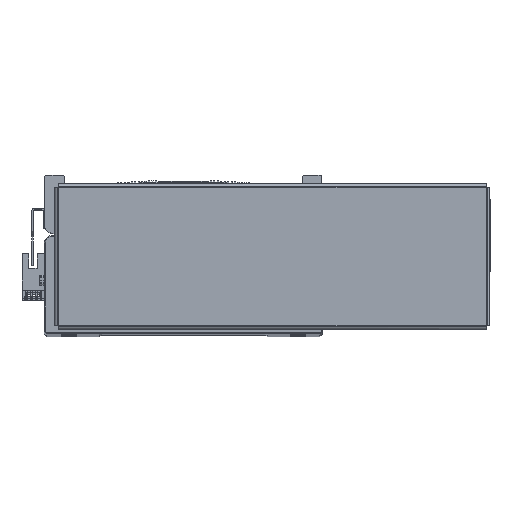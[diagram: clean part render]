
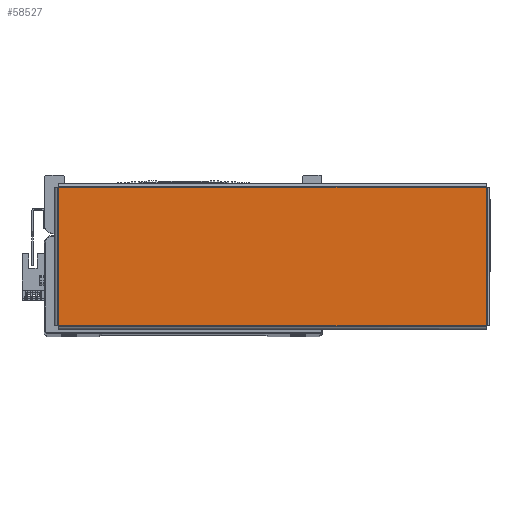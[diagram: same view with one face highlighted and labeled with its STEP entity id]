
A CAD part, top view. The second image highlights one B-rep face of the part: STEP entity #58527.
In plain terms, the highlighted planar face has unit normal (0, 0, 1) as drawn and (0, -1, 0) by its records, which use the part's own axes.
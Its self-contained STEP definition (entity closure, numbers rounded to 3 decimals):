
#2083 = PLANE ( 'NONE',  #71766 ) ;
#2295 = CARTESIAN_POINT ( 'NONE',  ( 0., -1.5, 0. ) ) ;
#2393 = DIRECTION ( 'NONE',  ( 0., 1., 0. ) ) ;
#2397 = DIRECTION ( 'NONE',  ( 0., 0., 1. ) ) ;
#14124 = FACE_OUTER_BOUND ( 'NONE', #55817, .T. ) ;
#14262 = LINE ( 'NONE', #71328, #14273 ) ;
#14273 = VECTOR ( 'NONE', #71342, 1000. ) ;
#14301 = LINE ( 'NONE', #71547, #14353 ) ;
#14309 = LINE ( 'NONE', #71543, #14337 ) ;
#14337 = VECTOR ( 'NONE', #71549, 1000. ) ;
#14353 = VECTOR ( 'NONE', #71511, 1000. ) ;
#20566 = CARTESIAN_POINT ( 'NONE',  ( 130.893, -1.5, 42.263 ) ) ;
#20584 = DIRECTION ( 'NONE',  ( -1., 0., 0. ) ) ;
#21286 = CARTESIAN_POINT ( 'NONE',  ( 130.863, -1.5, -42.263 ) ) ;
#21297 = CARTESIAN_POINT ( 'NONE',  ( -130.863, -1.5, -42.263 ) ) ;
#21312 = CARTESIAN_POINT ( 'NONE',  ( -130.863, -1.5, 42.263 ) ) ;
#21346 = CARTESIAN_POINT ( 'NONE',  ( 130.863, -1.5, 42.263 ) ) ;
#25128 = VERTEX_POINT ( 'NONE', #21312 ) ;
#25161 = VERTEX_POINT ( 'NONE', #21286 ) ;
#25168 = VERTEX_POINT ( 'NONE', #21297 ) ;
#25234 = VERTEX_POINT ( 'NONE', #21346 ) ;
#50578 = VECTOR ( 'NONE', #20584, 1000. ) ;
#50600 = LINE ( 'NONE', #20566, #50578 ) ;
#51252 = ORIENTED_EDGE ( 'NONE', *, *, #59886, .T. ) ;
#51324 = ORIENTED_EDGE ( 'NONE', *, *, #59920, .T. ) ;
#51373 = ORIENTED_EDGE ( 'NONE', *, *, #59914, .T. ) ;
#51374 = ORIENTED_EDGE ( 'NONE', *, *, #60897, .T. ) ;
#55817 = EDGE_LOOP ( 'NONE', ( #51252, #51374, #51324, #51373 ) ) ;
#58527 = ADVANCED_FACE ( 'NONE', ( #14124 ), #2083, .F. ) ;
#59886 = EDGE_CURVE ( 'NONE', #25161, #25234, #14262, .T. ) ;
#59914 = EDGE_CURVE ( 'NONE', #25168, #25161, #14301, .T. ) ;
#59920 = EDGE_CURVE ( 'NONE', #25128, #25168, #14309, .T. ) ;
#60897 = EDGE_CURVE ( 'NONE', #25234, #25128, #50600, .T. ) ;
#71328 = CARTESIAN_POINT ( 'NONE',  ( 130.863, -1.5, -42.293 ) ) ;
#71342 = DIRECTION ( 'NONE',  ( 0., 0., 1. ) ) ;
#71511 = DIRECTION ( 'NONE',  ( 1., 0., 0. ) ) ;
#71543 = CARTESIAN_POINT ( 'NONE',  ( -130.863, -1.5, 42.293 ) ) ;
#71547 = CARTESIAN_POINT ( 'NONE',  ( -130.893, -1.5, -42.263 ) ) ;
#71549 = DIRECTION ( 'NONE',  ( 0., 0., -1. ) ) ;
#71766 = AXIS2_PLACEMENT_3D ( 'NONE', #2295, #2393, #2397 ) ;
